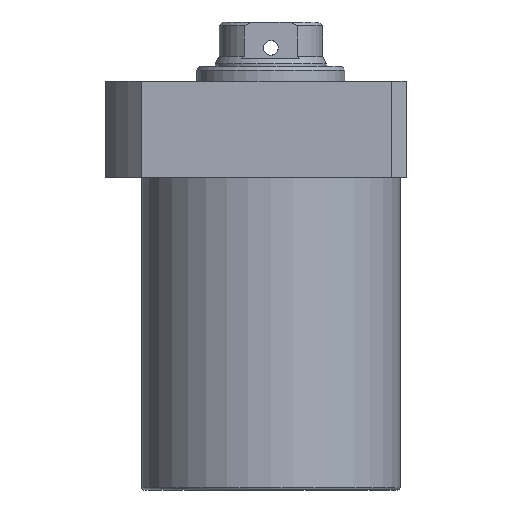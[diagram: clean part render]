
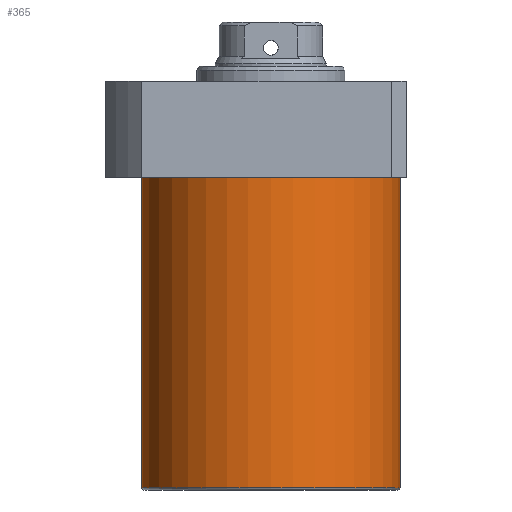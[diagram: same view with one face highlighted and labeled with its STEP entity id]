
A CAD part, front view. The second image highlights one B-rep face of the part: STEP entity #365.
In plain terms, the highlighted cylindrical face has radius 52.5 mm (diameter 105 mm), a partial arc.
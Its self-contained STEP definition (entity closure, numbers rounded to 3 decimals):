
#112 = DIRECTION ( 'NONE',  ( 0., 0., 1. ) ) ;
#141 = EDGE_CURVE ( 'NONE', #657, #898, #217, .T. ) ;
#142 = FACE_OUTER_BOUND ( 'NONE', #1444, .T. ) ;
#198 = EDGE_CURVE ( 'NONE', #447, #657, #2089, .T. ) ;
#217 = LINE ( 'NONE', #772, #614 ) ;
#244 = CYLINDRICAL_SURFACE ( 'NONE', #497, 52.5 ) ;
#307 = CARTESIAN_POINT ( 'NONE',  ( 52.5, 0., -145.5 ) ) ;
#313 = CARTESIAN_POINT ( 'NONE',  ( -52.5, 0., -146.5 ) ) ;
#315 = EDGE_CURVE ( 'NONE', #447, #1464, #1345, .T. ) ;
#343 = ORIENTED_EDGE ( 'NONE', *, *, #198, .T. ) ;
#365 = ADVANCED_FACE ( 'NONE', ( #142 ), #244, .T. ) ;
#396 = CARTESIAN_POINT ( 'NONE',  ( -52.5, 0., -19.5 ) ) ;
#447 = VERTEX_POINT ( 'NONE', #1073 ) ;
#477 = DIRECTION ( 'NONE',  ( 0., 0., 1. ) ) ;
#481 = VECTOR ( 'NONE', #477, 1000. ) ;
#491 = DIRECTION ( 'NONE',  ( 1., 0., 0. ) ) ;
#497 = AXIS2_PLACEMENT_3D ( 'NONE', #1347, #1519, #491 ) ;
#564 = AXIS2_PLACEMENT_3D ( 'NONE', #797, #1331, #1484 ) ;
#584 = EDGE_CURVE ( 'NONE', #898, #1464, #1226, .T. ) ;
#614 = VECTOR ( 'NONE', #760, 1000. ) ;
#646 = AXIS2_PLACEMENT_3D ( 'NONE', #1133, #112, #2012 ) ;
#657 = VERTEX_POINT ( 'NONE', #307 ) ;
#760 = DIRECTION ( 'NONE',  ( 0., 0., 1. ) ) ;
#772 = CARTESIAN_POINT ( 'NONE',  ( 52.5, 0., -146.5 ) ) ;
#797 = CARTESIAN_POINT ( 'NONE',  ( 0., 0., -19.5 ) ) ;
#898 = VERTEX_POINT ( 'NONE', #1951 ) ;
#1016 = ORIENTED_EDGE ( 'NONE', *, *, #584, .T. ) ;
#1050 = ORIENTED_EDGE ( 'NONE', *, *, #141, .T. ) ;
#1073 = CARTESIAN_POINT ( 'NONE',  ( -52.5, 0., -145.5 ) ) ;
#1133 = CARTESIAN_POINT ( 'NONE',  ( 0., 0., -145.5 ) ) ;
#1226 = CIRCLE ( 'NONE', #564, 52.5 ) ;
#1331 = DIRECTION ( 'NONE',  ( 0., 0., -1. ) ) ;
#1345 = LINE ( 'NONE', #313, #481 ) ;
#1347 = CARTESIAN_POINT ( 'NONE',  ( 0., 0., -146.5 ) ) ;
#1444 = EDGE_LOOP ( 'NONE', ( #2002, #343, #1050, #1016 ) ) ;
#1464 = VERTEX_POINT ( 'NONE', #396 ) ;
#1484 = DIRECTION ( 'NONE',  ( 1., 0., 0. ) ) ;
#1519 = DIRECTION ( 'NONE',  ( 0., 0., 1. ) ) ;
#1951 = CARTESIAN_POINT ( 'NONE',  ( 52.5, 0., -19.5 ) ) ;
#2002 = ORIENTED_EDGE ( 'NONE', *, *, #315, .F. ) ;
#2012 = DIRECTION ( 'NONE',  ( -1., 0., 0. ) ) ;
#2089 = CIRCLE ( 'NONE', #646, 52.5 ) ;
